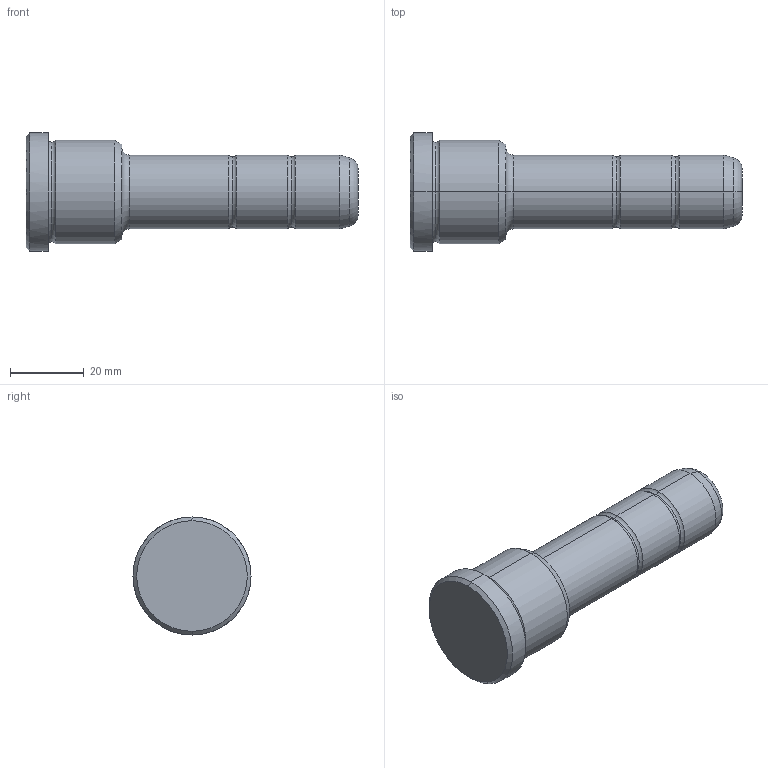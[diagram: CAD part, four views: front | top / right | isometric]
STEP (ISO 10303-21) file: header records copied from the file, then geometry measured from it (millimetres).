
FILE_DESCRIPTION(('CATIA V5 STEP Exchange'),'2;1');
FILE_NAME('C:\Users\Utente\Desktop\IO LAVORO\3D X SITO CF\X SITO\PLASTICA\351\351-20X26X90.stp','2021-08-27T12:32:01+00:00',('none'),('none'),'CATIA Version 5 Release 20 GA (IN-10)','CATIA V5 STEP AP203','none');
FILE_SCHEMA(('CONFIG_CONTROL_DESIGN'));
Length unit declared in the file: millimetre
Products named in the file (1): 351-20X26X90
Bounding box: 90 x 32 x 32 mm (x, y, z)
Volume: 36754.5 mm3; surface area: 7726.3 mm2
Topology: 1 solids, 1 shells, 36 faces, 102 edges, 70 vertices
Faces by surface type: torus 16, cylinder 10, cone 6, plane 4
Entity records: 1292 total; most frequent: CARTESIAN_POINT 321, ORIENTED_EDGE 204, DIRECTION 166, AXIS2_PLACEMENT_3D 115, EDGE_CURVE 102, CIRCLE 78, VERTEX_POINT 70, EDGE_LOOP 38
